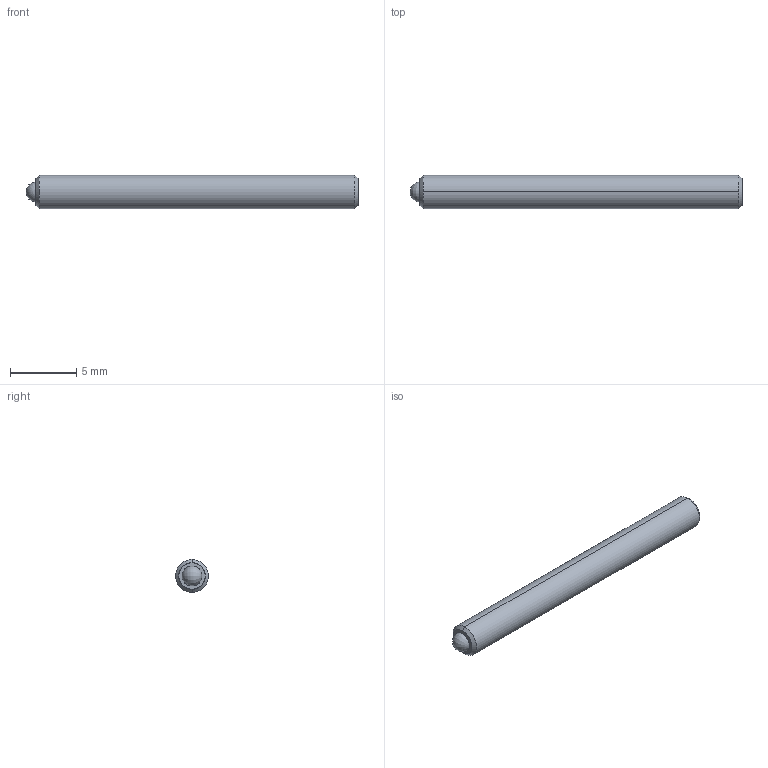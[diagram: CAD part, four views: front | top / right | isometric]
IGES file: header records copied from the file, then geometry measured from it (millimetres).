
Start section: SolidWorks IGES file using analytic representation for surfaces
Global section: file name: C:\Users\workpc\Desktop\KMA Solidworks\TS25-20 Series\TS25-20 IGES\TS25-20-25.IGS; native system: SolidWorks 2013; preprocessor: SolidWorks 2013; author: workpc; date: 150723.091358; units: millimetre
Bounding box: 25 x 2.5 x 2.5 mm (x, y, z)
Surface area: 219 mm2 (no closed solid volume)
Topology: 0 solids, 0 shells, 20 faces, 172 edges, 168 vertices
Faces by surface type: revolution 10, bspline 10
